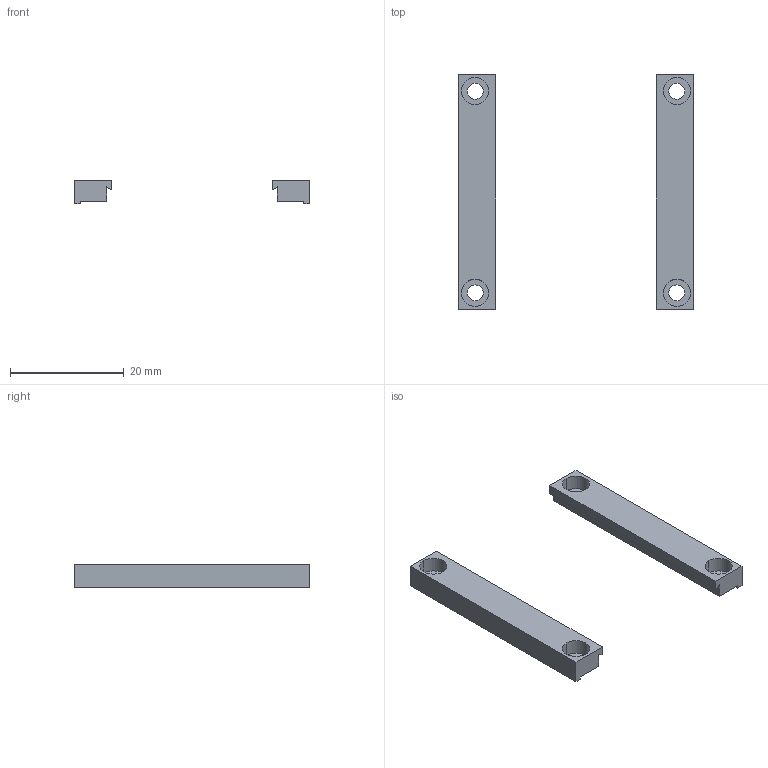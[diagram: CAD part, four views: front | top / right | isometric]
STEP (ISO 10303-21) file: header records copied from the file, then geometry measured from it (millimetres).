
FILE_DESCRIPTION (( 'STEP AP203' ), '1' );
FILE_NAME ('Befestigungssatz B 30.STEP', '2002-07-08T12:25:35', ( '' ), ( '' ), 'SwSTEP 2.0', 'SolidWorks 2002127', '' );
FILE_SCHEMA (( 'CONFIG_CONTROL_DESIGN' ));
Length unit declared in the file: millimetre
Products named in the file (2): Befestigungssatz B 30; Klemmleiste_dL_50-+-D013680_ _PDB_051786
Assembly tree (2 placements, depth 2):
  Befestigungssatz B 30
    Klemmleiste_dL_50-+-D013680_ _PDB_051786  x2
Bounding box: 41.2 x 41.2 x 4.2 mm (x, y, z)
Volume: 1636.7 mm3; surface area: 2056.6 mm2
Topology: 2 solids, 2 shells, 40 faces, 96 edges, 64 vertices
Faces by surface type: plane 24, cylinder 16
Entity records: 824 total; most frequent: DIRECTION 114, CARTESIAN_POINT 105, ORIENTED_EDGE 96, EDGE_CURVE 48, AXIS2_PLACEMENT_3D 41, VERTEX_POINT 32, LINE 32, VECTOR 32
